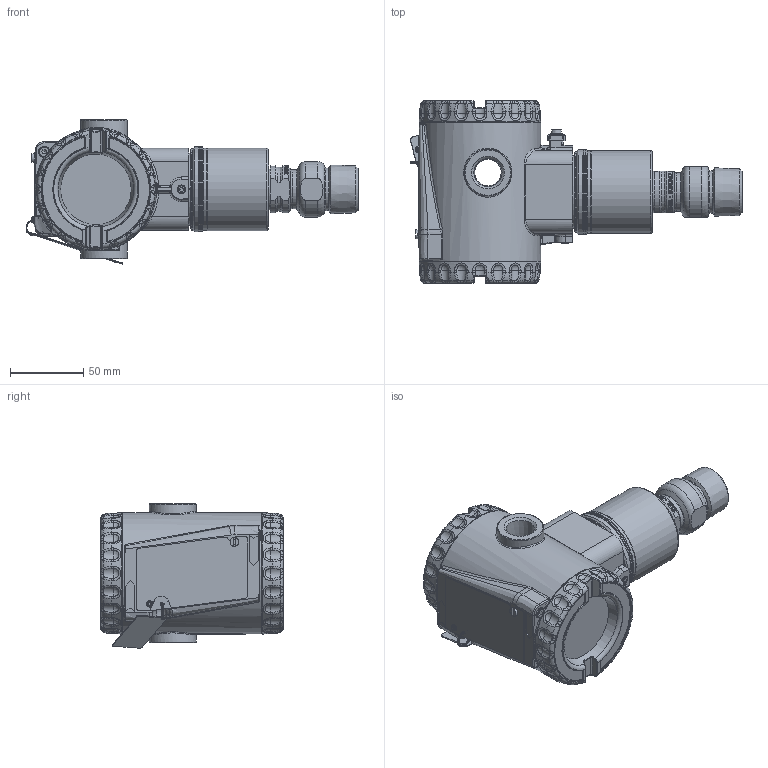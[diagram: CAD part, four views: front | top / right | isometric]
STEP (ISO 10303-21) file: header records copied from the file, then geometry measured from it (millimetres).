
FILE_DESCRIPTION(/* description */ (''),/* implementation_level */ '2;1');
FILE_NAME(/* name */ 'F:\Area\Desenvolvimento_2\Projects\Sensor\projetos\LD400-3d\dimensionais 3D clientes\LD400G\LD400G5 1 NPT SELADO.stp',/* time_stamp */ '2023-02-02T16:57:24-03:00',/* author */ ('inventor02'),/* organization */ (''),/* preprocessor_version */ 'ST-DEVELOPER v17',/* originating_system */ 'Autodesk Inventor 2019',/* authorisation */ '');
FILE_SCHEMA (('CONFIG_CONTROL_DESIGN'));
Products named in the file (28): LD400G5 1 NPT SELADO; SENSOR 29X FX5 1NPT macho selado; 101-B-5897-01 capa fx5; 101-C-3677-06 conexao ao processo 1-2NPT; 101-D-1309-04 pescoço LD29x usinado; 101-C-3962-04 - X - 1NPT selado; DIAFRAGMA CORRUGADO D27-5; Carcaça 400 com tampas e plaqueta sem letras; 101-D-0845-05 carcaça LD400 sem letras; 101-B-3614-03-tampa 400 sem letras; Tampa visor 400 montada sem letras; 101-B-3612-05 tampa visor 400 sem letras; 101-A-6107; oring 2034; 00034775-0; WHW_250; DIN 915 - M6 x 10; Chapa aterramento externo; 201-A-1771-02 inserto terra recartilhado; AS 1969 - ST4,2; ISO 1207 - M4 x 8; ANSI B18.3.1M - M4x0,7 x 8; Subconjunto plaqueta 400; plaqueta 400 em branco; Parafuso da Plaqueta; Rebite da Plaqueta; 096-A-0169-03; 101-A-0502-01
Assembly tree (29 placements, depth 4):
  LD400G5 1 NPT SELADO
    SENSOR 29X FX5 1NPT macho selado
      101-B-5897-01 capa fx5
      101-C-3677-06 conexao ao processo 1-2NPT
      101-D-1309-04 pescoço LD29x usinado
      101-C-3962-04 - X - 1NPT selado
      DIN 915 - M6 x 10
      DIAFRAGMA CORRUGADO D27-5
    Carcaça 400 com tampas e plaqueta sem letras
      101-D-0845-05 carcaça LD400 sem letras
      101-B-3614-03-tampa 400 sem letras
      Tampa visor 400 montada sem letras
        101-B-3612-05 tampa visor 400 sem letras
        101-A-6107
        oring 2034
        00034775-0
        WHW_250
      DIN 915 - M6 x 10
      Chapa aterramento externo
      201-A-1771-02 inserto terra recartilhado
      AS 1969 - ST4,2
      ISO 1207 - M4 x 8
      ANSI B18.3.1M - M4x0,7 x 8  x2
      Subconjunto plaqueta 400
        plaqueta 400 em branco
        Parafuso da Plaqueta
        Rebite da Plaqueta
        096-A-0169-03
        101-A-0502-01
Bounding box: 227.05 x 125 x 98.64 mm (x, y, z)
Volume: 482401.3 mm3; surface area: 194465.6 mm2
Topology: 25 solids, 25 shells, 2029 faces, 5081 edges, 3121 vertices
Faces by surface type: plane 559, bspline 516, cylinder 448, torus 304, cone 147, sphere 55
Full cylindrical faces by diameter (mm): 2 x3, 2.1 x1, 2.2 x1, 2.459 x3, 2.5 x1, 2.7 x1, 3 x1, 3.2 x1, 3.242 x3, 3.5 x4, 3.571 x1, 4 x5, 4.3 x2, 4.4 x1, 4.917 x2, 6 x3, 6.1 x2, 6.2 x1, 7 x2, 7.6 x2, 17 x1, 17.5 x1, 18 x1, 18.3 x2, 26.5 x2, 27.5 x2, 28.399 x1, 29 x1, 32 x2, 32.2 x1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
Entity records: 78271 total; most frequent: CARTESIAN_POINT 31147, ORIENTED_EDGE 9922, DIRECTION 9316, EDGE_CURVE 4961, AXIS2_PLACEMENT_3D 3888, VERTEX_POINT 3069, CIRCLE 2258, EDGE_LOOP 2106
